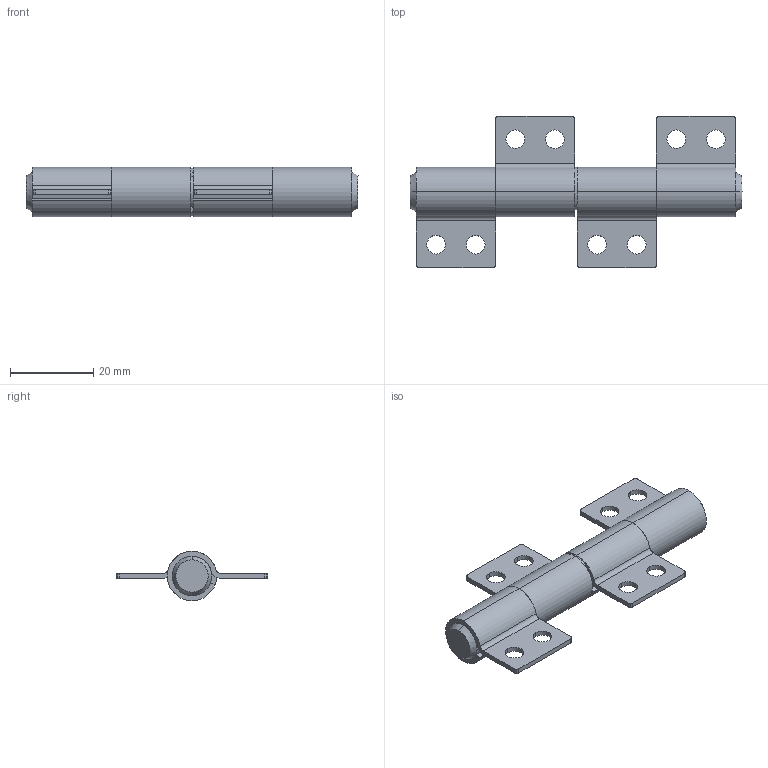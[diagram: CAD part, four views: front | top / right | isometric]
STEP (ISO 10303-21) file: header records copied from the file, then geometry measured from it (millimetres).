
FILE_DESCRIPTION(('STEP AP214'),'1');
FILE_NAME('C:/Users/HAN/Desktop/3000-0002-HNG L Rev 0_0.stp','2012-12-04T04:10:33',(' '),(' '),'Spatial InterOp 3D',' ',' ');
FILE_SCHEMA(('automotive_design'));
Length unit declared in the file: inch
Products named in the file (6): 3000-0001-BND Rev 0_0; 3000-0004-SHA Rev 0_0; Snap Ring 2000-37
Bounding box: 79.88 x 36.47 x 11.93 mm (x, y, z)
Volume: 9550 mm3; surface area: 9830.3 mm2
Topology: 6 solids, 6 shells, 120 faces, 314 edges, 208 vertices
Faces by surface type: cylinder 80, plane 36, cone 4
Entity records: 4853 total; most frequent: DIRECTION 730, CARTESIAN_POINT 648, ORIENTED_EDGE 628, EDGE_CURVE 314, AXIS2_PLACEMENT_3D 290, VERTEX_POINT 208, CIRCLE 164, LINE 150
